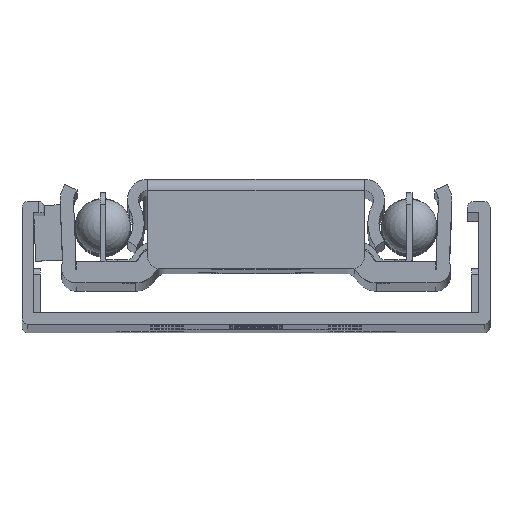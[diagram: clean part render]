
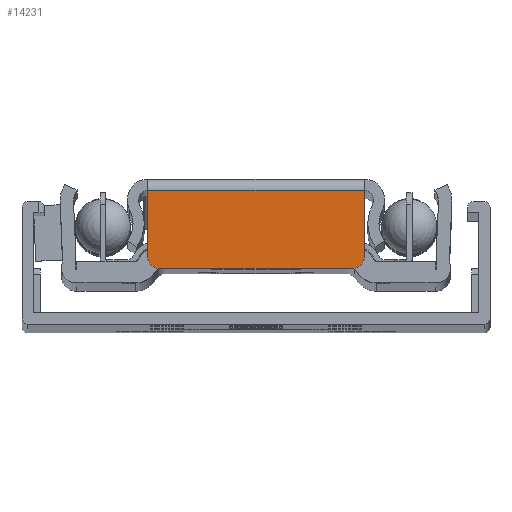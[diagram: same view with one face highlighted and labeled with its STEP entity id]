
A CAD part, top view. The second image highlights one B-rep face of the part: STEP entity #14231.
In plain terms, the highlighted planar face has unit normal (0, 0, 1).
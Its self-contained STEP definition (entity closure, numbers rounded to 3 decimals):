
#678=PLANE('',#15642);
#1388=FACE_OUTER_BOUND('',#2255,.T.);
#2255=EDGE_LOOP('',(#13086,#13087,#13088,#13089,#13090,#13091));
#3642=LINE('',#24119,#5031);
#3643=LINE('',#24122,#5032);
#3644=LINE('',#24126,#5033);
#3645=LINE('',#24129,#5034);
#5031=VECTOR('',#19700,10.);
#5032=VECTOR('',#19703,10.);
#5033=VECTOR('',#19706,10.);
#5034=VECTOR('',#19709,10.);
#5696=CIRCLE('',#15643,1.);
#5697=CIRCLE('',#15644,1.);
#7045=VERTEX_POINT('',#24115);
#7046=VERTEX_POINT('',#24117);
#7047=VERTEX_POINT('',#24121);
#7048=VERTEX_POINT('',#24123);
#7049=VERTEX_POINT('',#24125);
#7050=VERTEX_POINT('',#24127);
#9083=EDGE_CURVE('',#7046,#7045,#3642,.T.);
#9084=EDGE_CURVE('',#7046,#7047,#3643,.T.);
#9085=EDGE_CURVE('',#7048,#7047,#5696,.T.);
#9086=EDGE_CURVE('',#7048,#7049,#3644,.T.);
#9087=EDGE_CURVE('',#7050,#7049,#5697,.T.);
#9088=EDGE_CURVE('',#7045,#7050,#3645,.T.);
#13086=ORIENTED_EDGE('',*,*,#9083,.F.);
#13087=ORIENTED_EDGE('',*,*,#9084,.T.);
#13088=ORIENTED_EDGE('',*,*,#9085,.F.);
#13089=ORIENTED_EDGE('',*,*,#9086,.T.);
#13090=ORIENTED_EDGE('',*,*,#9087,.F.);
#13091=ORIENTED_EDGE('',*,*,#9088,.F.);
#14231=ADVANCED_FACE('',(#1388),#678,.T.);
#15642=AXIS2_PLACEMENT_3D('',#24120,#19701,#19702);
#15643=AXIS2_PLACEMENT_3D('',#24124,#19704,#19705);
#15644=AXIS2_PLACEMENT_3D('',#24128,#19707,#19708);
#19700=DIRECTION('',(-1.,0.,0.));
#19701=DIRECTION('center_axis',(0.,0.,1.));
#19702=DIRECTION('ref_axis',(1.,0.,0.));
#19703=DIRECTION('',(0.,1.,0.));
#19704=DIRECTION('center_axis',(0.,0.,-1.));
#19705=DIRECTION('ref_axis',(0.707,0.707,0.));
#19706=DIRECTION('',(-1.,0.,0.));
#19707=DIRECTION('center_axis',(0.,0.,-1.));
#19708=DIRECTION('ref_axis',(-0.707,0.707,0.));
#19709=DIRECTION('',(0.,1.,0.));
#24115=CARTESIAN_POINT('',(4.892,-4.95,421.));
#24117=CARTESIAN_POINT('',(24.354,-4.95,421.));
#24119=CARTESIAN_POINT('',(19.501,-4.95,421.));
#24120=CARTESIAN_POINT('Origin',(24.354,-5.95,421.));
#24121=CARTESIAN_POINT('',(24.354,1.05,421.));
#24122=CARTESIAN_POINT('',(24.354,-5.95,421.));
#24123=CARTESIAN_POINT('',(23.354,2.05,421.));
#24124=CARTESIAN_POINT('Origin',(23.354,1.05,421.));
#24125=CARTESIAN_POINT('',(5.892,2.05,421.));
#24126=CARTESIAN_POINT('',(24.354,2.05,421.));
#24127=CARTESIAN_POINT('',(4.892,1.05,421.));
#24128=CARTESIAN_POINT('Origin',(5.892,1.05,421.));
#24129=CARTESIAN_POINT('',(4.892,-5.95,421.));
